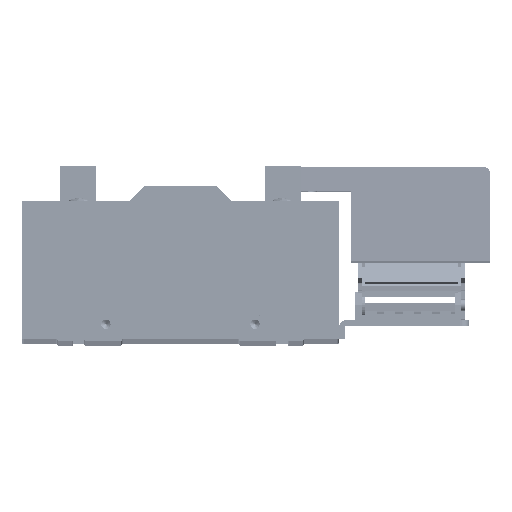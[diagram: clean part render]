
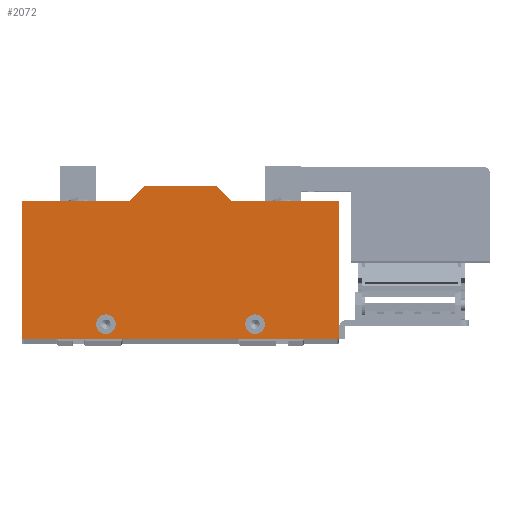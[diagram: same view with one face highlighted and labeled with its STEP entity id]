
A CAD part, top view. The second image highlights one B-rep face of the part: STEP entity #2072.
In plain terms, the highlighted planar face has unit normal (0, 0, 1).
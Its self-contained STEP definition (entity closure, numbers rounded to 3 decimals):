
#2053 = ORIENTED_EDGE ( 'NONE', *, *, #2094, .T. ) ;
#2058 = ORIENTED_EDGE ( 'NONE', *, *, #136295, .T. ) ;
#2072 = ADVANCED_FACE ( 'NONE', ( #107480, #107475, #107474 ), #107467, .T. ) ;
#2075 = ORIENTED_EDGE ( 'NONE', *, *, #136041, .T. ) ;
#2082 = ORIENTED_EDGE ( 'NONE', *, *, #2089, .F. ) ;
#2089 = EDGE_CURVE ( 'NONE', #135946, #135720, #107240, .T. ) ;
#2094 = EDGE_CURVE ( 'NONE', #136803, #137000, #107189, .T. ) ;
#2118 = ORIENTED_EDGE ( 'NONE', *, *, #136240, .T. ) ;
#2120 = ORIENTED_EDGE ( 'NONE', *, *, #137028, .T. ) ;
#2122 = ORIENTED_EDGE ( 'NONE', *, *, #136071, .T. ) ;
#2140 = ORIENTED_EDGE ( 'NONE', *, *, #136251, .T. ) ;
#2141 = ORIENTED_EDGE ( 'NONE', *, *, #136763, .T. ) ;
#56509 = DIRECTION ( 'NONE',  ( -0.707, -0.707, 0. ) ) ;
#56511 = VECTOR ( 'NONE', #56509, 1000. ) ;
#56513 = CARTESIAN_POINT ( 'NONE',  ( -27.5, 37., 9.525 ) ) ;
#56514 = LINE ( 'NONE', #56513, #56511 ) ;
#56674 = CARTESIAN_POINT ( 'NONE',  ( -27.5, 37., 9.525 ) ) ;
#56909 = DIRECTION ( 'NONE',  ( 1., 0., 0. ) ) ;
#56910 = DIRECTION ( 'NONE',  ( 0., 0., 1. ) ) ;
#56912 = CARTESIAN_POINT ( 'NONE',  ( 40., -29., 9.525 ) ) ;
#56913 = AXIS2_PLACEMENT_3D ( 'NONE', #56912, #56910, #56909 ) ;
#56916 = CIRCLE ( 'NONE', #56913, 5.25 ) ;
#57181 = CARTESIAN_POINT ( 'NONE',  ( 27.5, 37., 9.525 ) ) ;
#57241 = CARTESIAN_POINT ( 'NONE',  ( -85., 37., 9.525 ) ) ;
#57251 = CARTESIAN_POINT ( 'NONE',  ( -85., -37., 9.525 ) ) ;
#57281 = DIRECTION ( 'NONE',  ( -1., 0., 0. ) ) ;
#57283 = VECTOR ( 'NONE', #57281, 1000. ) ;
#57286 = CARTESIAN_POINT ( 'NONE',  ( 27.5, 37., 9.525 ) ) ;
#57297 = LINE ( 'NONE', #57286, #57283 ) ;
#92277 = DIRECTION ( 'NONE',  ( 1., 0., 0. ) ) ;
#92279 = DIRECTION ( 'NONE',  ( 0., 0., 1. ) ) ;
#92280 = CARTESIAN_POINT ( 'NONE',  ( -40., -29., 9.525 ) ) ;
#92282 = AXIS2_PLACEMENT_3D ( 'NONE', #92280, #92279, #92277 ) ;
#92283 = CIRCLE ( 'NONE', #92282, 5.25 ) ;
#92504 = CARTESIAN_POINT ( 'NONE',  ( 34.75, -29., 9.525 ) ) ;
#93615 = CARTESIAN_POINT ( 'NONE',  ( -45.25, -29., 9.525 ) ) ;
#94457 = DIRECTION ( 'NONE',  ( 1., 0., 0. ) ) ;
#94459 = DIRECTION ( 'NONE',  ( 0., 0., 1. ) ) ;
#94460 = CARTESIAN_POINT ( 'NONE',  ( 40., -29., 9.525 ) ) ;
#94461 = AXIS2_PLACEMENT_3D ( 'NONE', #94460, #94459, #94457 ) ;
#94462 = CIRCLE ( 'NONE', #94461, 5.25 ) ;
#94511 = CARTESIAN_POINT ( 'NONE',  ( -34.75, -29., 9.525 ) ) ;
#94742 = CARTESIAN_POINT ( 'NONE',  ( 45.25, -29., 9.525 ) ) ;
#95023 = DIRECTION ( 'NONE',  ( 0., -1., 0. ) ) ;
#95025 = VECTOR ( 'NONE', #95023, 1000. ) ;
#95028 = CARTESIAN_POINT ( 'NONE',  ( -85., 37., 9.525 ) ) ;
#95029 = LINE ( 'NONE', #95028, #95025 ) ;
#95074 = LINE ( 'NONE', #95261, #95260 ) ;
#95095 = CARTESIAN_POINT ( 'NONE',  ( 19.5, 45., 9.525 ) ) ;
#95259 = DIRECTION ( 'NONE',  ( -0.707, 0.707, 0. ) ) ;
#95260 = VECTOR ( 'NONE', #95259, 1000. ) ;
#95261 = CARTESIAN_POINT ( 'NONE',  ( 19.5, 45., 9.525 ) ) ;
#95775 = DIRECTION ( 'NONE',  ( 0., 1., 0. ) ) ;
#95777 = VECTOR ( 'NONE', #95775, 1000. ) ;
#95779 = CARTESIAN_POINT ( 'NONE',  ( 85., 37., 9.525 ) ) ;
#95784 = LINE ( 'NONE', #95779, #95777 ) ;
#95837 = CARTESIAN_POINT ( 'NONE',  ( -19.5, 45., 9.525 ) ) ;
#95954 = DIRECTION ( 'NONE',  ( -1., 0., 0. ) ) ;
#95956 = VECTOR ( 'NONE', #95954, 1000. ) ;
#95961 = CARTESIAN_POINT ( 'NONE',  ( -19.5, 45., 9.525 ) ) ;
#95964 = LINE ( 'NONE', #95961, #95956 ) ;
#96175 = DIRECTION ( 'NONE',  ( 1., 0., 0. ) ) ;
#96178 = VECTOR ( 'NONE', #96175, 1000. ) ;
#96182 = CARTESIAN_POINT ( 'NONE',  ( -85., -37., 9.525 ) ) ;
#96183 = LINE ( 'NONE', #96182, #96178 ) ;
#96269 = CARTESIAN_POINT ( 'NONE',  ( 85., -37., 9.525 ) ) ;
#96598 = CARTESIAN_POINT ( 'NONE',  ( 85., 37., 9.525 ) ) ;
#107181 = DIRECTION ( 'NONE',  ( -1., 0., 0. ) ) ;
#107182 = VECTOR ( 'NONE', #107181, 1000. ) ;
#107186 = CARTESIAN_POINT ( 'NONE',  ( -85., 37., 9.525 ) ) ;
#107189 = LINE ( 'NONE', #107186, #107182 ) ;
#107231 = DIRECTION ( 'NONE',  ( 1., 0., 0. ) ) ;
#107233 = DIRECTION ( 'NONE',  ( 0., 0., 1. ) ) ;
#107235 = CARTESIAN_POINT ( 'NONE',  ( -40., -29., 9.525 ) ) ;
#107237 = AXIS2_PLACEMENT_3D ( 'NONE', #107235, #107233, #107231 ) ;
#107240 = CIRCLE ( 'NONE', #107237, 5.25 ) ;
#107456 = DIRECTION ( 'NONE',  ( 1., 0., 0. ) ) ;
#107458 = DIRECTION ( 'NONE',  ( 0., 0., 1. ) ) ;
#107462 = CARTESIAN_POINT ( 'NONE',  ( -85., 37., 9.525 ) ) ;
#107465 = AXIS2_PLACEMENT_3D ( 'NONE', #107462, #107458, #107456 ) ;
#107467 = PLANE ( 'NONE',  #107465 ) ;
#107474 = FACE_OUTER_BOUND ( 'NONE', #136915, .T. ) ;
#107475 = FACE_BOUND ( 'NONE', #136854, .T. ) ;
#107480 = FACE_BOUND ( 'NONE', #136746, .T. ) ;
#135611 = EDGE_CURVE ( 'NONE', #135720, #135946, #92283, .T. ) ;
#135676 = VERTEX_POINT ( 'NONE', #92504 ) ;
#135720 = VERTEX_POINT ( 'NONE', #93615 ) ;
#135918 = EDGE_CURVE ( 'NONE', #135676, #135998, #94462, .T. ) ;
#135946 = VERTEX_POINT ( 'NONE', #94511 ) ;
#135998 = VERTEX_POINT ( 'NONE', #94742 ) ;
#136041 = EDGE_CURVE ( 'NONE', #137000, #136996, #95029, .T. ) ;
#136066 = VERTEX_POINT ( 'NONE', #95095 ) ;
#136071 = EDGE_CURVE ( 'NONE', #136981, #136066, #95074, .T. ) ;
#136224 = VERTEX_POINT ( 'NONE', #95837 ) ;
#136240 = EDGE_CURVE ( 'NONE', #136316, #136390, #95784, .T. ) ;
#136251 = EDGE_CURVE ( 'NONE', #136066, #136224, #95964, .T. ) ;
#136295 = EDGE_CURVE ( 'NONE', #136996, #136316, #96183, .T. ) ;
#136316 = VERTEX_POINT ( 'NONE', #96269 ) ;
#136390 = VERTEX_POINT ( 'NONE', #96598 ) ;
#136746 = EDGE_LOOP ( 'NONE', ( #2082, #136846 ) ) ;
#136763 = EDGE_CURVE ( 'NONE', #136224, #136803, #56514, .T. ) ;
#136803 = VERTEX_POINT ( 'NONE', #56674 ) ;
#136846 = ORIENTED_EDGE ( 'NONE', *, *, #135611, .F. ) ;
#136854 = EDGE_LOOP ( 'NONE', ( #136870, #136900 ) ) ;
#136870 = ORIENTED_EDGE ( 'NONE', *, *, #136879, .F. ) ;
#136879 = EDGE_CURVE ( 'NONE', #135998, #135676, #56916, .T. ) ;
#136900 = ORIENTED_EDGE ( 'NONE', *, *, #135918, .F. ) ;
#136915 = EDGE_LOOP ( 'NONE', ( #2075, #2058, #2118, #2120, #2122, #2140, #2141, #2053 ) ) ;
#136981 = VERTEX_POINT ( 'NONE', #57181 ) ;
#136996 = VERTEX_POINT ( 'NONE', #57251 ) ;
#137000 = VERTEX_POINT ( 'NONE', #57241 ) ;
#137028 = EDGE_CURVE ( 'NONE', #136390, #136981, #57297, .T. ) ;
